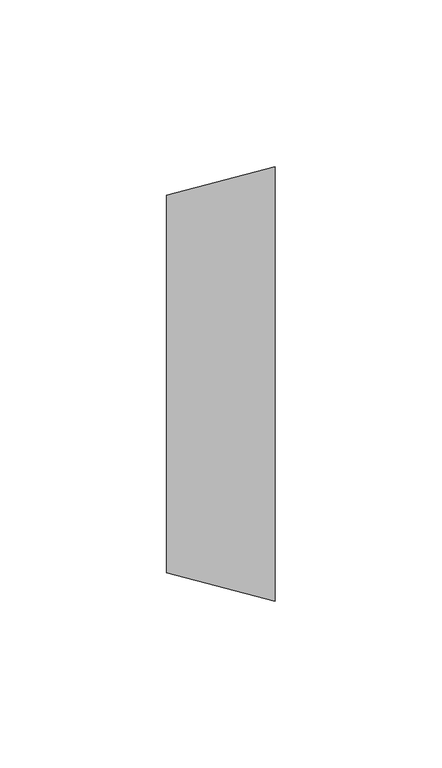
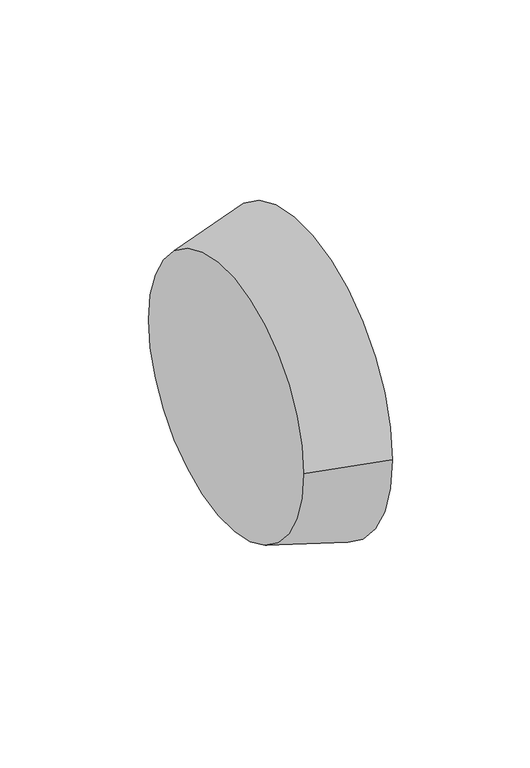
"""IFC4 building model written with IfcOpenShell, lengths in millimetres: pipe fitting geometry, M_Transición - Genérica : Estándar."""

from ifc_helpers import new_model, si_unit, frame, origin, place, context, project, spatial, circle_curve, source, transform, mapped, element, save
from ifc_brep_helpers import plane_surface, spline_surface, advanced_brep


def pipe_fitting_c1f1a72e(model_context):
    return source(origin(), model_context, "Body", "AdvancedBrep", [
        advanced_brep(
        [(32.54375, 65.1025914, -3.98e-05), (32.54375, -65.0724086, -3.98e-05), (0.0, 56.5875, 0.0), (0.0, -56.5875, 0.0)],
        [
            (0, 1, circle_curve(frame((32.54375, 0.0150914, -3.98e-05), z_axis=(1.0, 0.0, 0.0), x_axis=(0.0, -1.0, 0.0)), 65.0875)),
            (1, 0, circle_curve(frame((32.54375, 0.0150914, -3.98e-05), z_axis=(1.0, 0.0, 0.0), x_axis=(0.0, -1.0, 0.0)), 65.0875)),
            (2, 3, circle_curve(frame((0.0, 0.0, 0.0), z_axis=(-1.0, 0.0, 0.0), x_axis=(0.0, -1.0, 0.0)), 56.5875)),
            (3, 2, circle_curve(frame((0.0, 0.0, 0.0), z_axis=(-1.0, 0.0, 0.0), x_axis=(0.0, -1.0, 0.0)), 56.5875)),
            (2, 0),
            (1, 3),
        ],
        [
            plane_surface(frame((32.54375, 0.0150914, -3.98e-05), z_axis=(1.0, 0.0, 0.0), x_axis=(0.0, 0.0, -1.0))),
            plane_surface(frame((0.0, 0.0, 0.0), z_axis=(-1.0, 0.0, 0.0), x_axis=(0.0, 0.0, -1.0))),
            spline_surface(1, 2, [[(0.0, 56.5875, 0.0), (0.0, 56.5875, -56.5875), (0.0, 0.0, -56.5875), (0.0, -56.5875, -56.587499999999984), (0.0, -56.5875, 0.0)], [(32.54375, 65.1025914, -3.98e-05), (32.54375, 65.1025914, -65.08753979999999), (32.54375, 0.0150914, -65.08753979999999), (32.54375, -65.07240859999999, -65.08753979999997), (32.54375, -65.0724086, -3.98e-05)]], [2, 2], [3, 2, 3], [0.0, 1.0], [0.0, 1.0, 2.0], weights=[[1.0, 0.7071067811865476, 1.0, 0.7071067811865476, 1.0], [1.0, 0.7071067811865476, 1.0, 0.7071067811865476, 1.0]]),
            spline_surface(1, 2, [[(0.0, -56.5875, 0.0), (0.0, -56.5875, 56.5875), (0.0, 0.0, 56.5875), (0.0, 56.5875, 56.58750000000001), (0.0, 56.5875, 0.0)], [(32.54375, -65.0724086, -3.98e-05), (32.54375, -65.0724086, 65.08746020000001), (32.54375, 0.0150914, 65.08746020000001), (32.54375, 65.10259140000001, 65.08746020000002), (32.54375, 65.1025914, -3.98e-05)]], [2, 2], [3, 2, 3], [0.0, 1.0], [0.0, 1.0, 2.0], weights=[[1.0, 0.7071067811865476, 1.0, 0.7071067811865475, 1.0], [1.0, 0.7071067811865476, 1.0, 0.7071067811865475, 1.0]]),
        ],
        [
            (0, [[1, 2]]),
            (1, [[3, 4]]),
            (2, [[5, -2, 6, -3]]),
            (3, [[-6, -1, -5, -4]]),
        ],
    ),
    ])


if __name__ == "__main__":
    model = new_model("IFC4")
    model_context = context("Model", 3, world=origin())
    ifc_project = project(units=[si_unit("LENGTHUNIT", "METRE", prefix="MILLI")], contexts=[model_context])
    site = spatial("IfcSite", under=ifc_project)
    building = spatial("IfcBuilding", under=site)
    placement = place(None, origin())
    pipe_fitting_shape = pipe_fitting_c1f1a72e(model_context)
    element("IfcPipeFitting", 1, ObjectType="M_Transición - Genérica : Estándar", at=placement, inside=building, context=model_context, shape_type="MappedRepresentation", body=[
        mapped(pipe_fitting_shape, transform((0.0, 0.0, 0.0), x_axis=(1.0, 0.0, 0.0), y_axis=(0.0, 1.0, 0.0), z_axis=(0.0, 0.0, 1.0))),
    ])
    save(model, "model.ifc")
